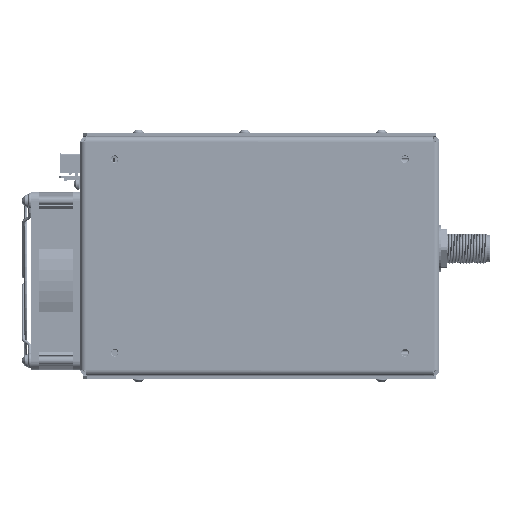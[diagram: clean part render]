
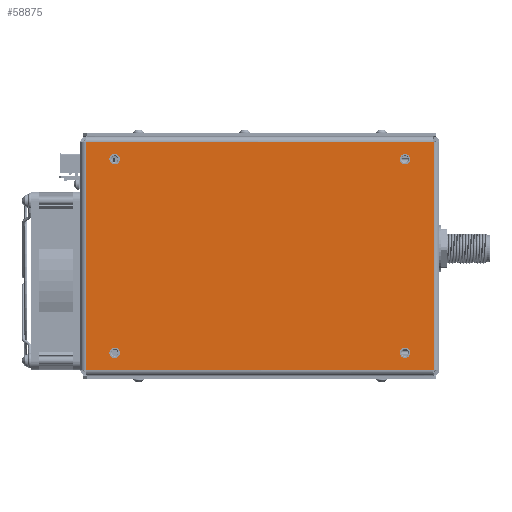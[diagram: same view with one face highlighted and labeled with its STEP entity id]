
A CAD part, front view. The second image highlights one B-rep face of the part: STEP entity #58875.
In plain terms, the highlighted planar face has unit normal (0, -1, 0).
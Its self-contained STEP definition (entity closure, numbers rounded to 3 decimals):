
#8344 = EDGE_LOOP ( 'NONE', ( #249452, #473746 ) ) ;
#12998 = DIRECTION ( 'NONE',  ( -1., 0., 0. ) ) ;
#20487 = VERTEX_POINT ( 'NONE', #201217 ) ;
#33942 = ORIENTED_EDGE ( 'NONE', *, *, #510217, .T. ) ;
#37025 = ORIENTED_EDGE ( 'NONE', *, *, #459307, .T. ) ;
#48754 = CARTESIAN_POINT ( 'NONE',  ( -170.455, 0., 111.75 ) ) ;
#54101 = VECTOR ( 'NONE', #383720, 1000. ) ;
#55480 = EDGE_LOOP ( 'NONE', ( #537529, #592021 ) ) ;
#58213 = CARTESIAN_POINT ( 'NONE',  ( -17.75, 0., 111.75 ) ) ;
#58875 = ADVANCED_FACE ( 'NONE', ( #510044, #379153, #248089, #625692, #448260 ), #419265, .T. ) ;
#68064 = CIRCLE ( 'NONE', #303082, 2.705 ) ;
#76726 = CARTESIAN_POINT ( 'NONE',  ( -182.5, 0., 120.5 ) ) ;
#76876 = VERTEX_POINT ( 'NONE', #127651 ) ;
#94301 = CARTESIAN_POINT ( 'NONE',  ( -17.75, 0., 111.75 ) ) ;
#94317 = CARTESIAN_POINT ( 'NONE',  ( -17.75, 0., 11.75 ) ) ;
#95031 = CARTESIAN_POINT ( 'NONE',  ( -167.75, 0., 111.75 ) ) ;
#102767 = CARTESIAN_POINT ( 'NONE',  ( -3., 0., 3. ) ) ;
#102808 = CARTESIAN_POINT ( 'NONE',  ( -17.75, 0., 11.75 ) ) ;
#119859 = ORIENTED_EDGE ( 'NONE', *, *, #293276, .T. ) ;
#124721 = EDGE_LOOP ( 'NONE', ( #309951, #176702 ) ) ;
#127651 = CARTESIAN_POINT ( 'NONE',  ( -20.455, 0., 11.75 ) ) ;
#128991 = DIRECTION ( 'NONE',  ( 0., 1., 0. ) ) ;
#141251 = EDGE_CURVE ( 'NONE', #439300, #438697, #377785, .T. ) ;
#142222 = VERTEX_POINT ( 'NONE', #267047 ) ;
#155110 = LINE ( 'NONE', #431072, #54101 ) ;
#158162 = CARTESIAN_POINT ( 'NONE',  ( -182.5, 0., 3. ) ) ;
#160303 = VERTEX_POINT ( 'NONE', #548772 ) ;
#176702 = ORIENTED_EDGE ( 'NONE', *, *, #358355, .T. ) ;
#176821 = CIRCLE ( 'NONE', #186142, 2.705 ) ;
#178490 = EDGE_CURVE ( 'NONE', #76876, #183857, #68064, .T. ) ;
#179921 = AXIS2_PLACEMENT_3D ( 'NONE', #377774, #222673, #526289 ) ;
#183857 = VERTEX_POINT ( 'NONE', #382522 ) ;
#186142 = AXIS2_PLACEMENT_3D ( 'NONE', #94301, #484477, #344446 ) ;
#186356 = AXIS2_PLACEMENT_3D ( 'NONE', #95031, #605730, #12998 ) ;
#189446 = VECTOR ( 'NONE', #620124, 1000. ) ;
#193722 = VECTOR ( 'NONE', #605201, 1000. ) ;
#201217 = CARTESIAN_POINT ( 'NONE',  ( -3., 0., 120.5 ) ) ;
#222673 = DIRECTION ( 'NONE',  ( 0., 1., 0. ) ) ;
#225102 = ORIENTED_EDGE ( 'NONE', *, *, #141251, .T. ) ;
#229599 = CARTESIAN_POINT ( 'NONE',  ( 0., 0., 123.5 ) ) ;
#237477 = AXIS2_PLACEMENT_3D ( 'NONE', #229599, #518304, #617395 ) ;
#238210 = CARTESIAN_POINT ( 'NONE',  ( -182.5, 0., 3. ) ) ;
#248089 = FACE_BOUND ( 'NONE', #55480, .T. ) ;
#249452 = ORIENTED_EDGE ( 'NONE', *, *, #324177, .T. ) ;
#255248 = EDGE_CURVE ( 'NONE', #20487, #532168, #320448, .T. ) ;
#255956 = CARTESIAN_POINT ( 'NONE',  ( -15.045, 0., 111.75 ) ) ;
#267047 = CARTESIAN_POINT ( 'NONE',  ( -165.045, 0., 11.75 ) ) ;
#272213 = AXIS2_PLACEMENT_3D ( 'NONE', #58213, #403387, #504539 ) ;
#275363 = CIRCLE ( 'NONE', #611101, 2.705 ) ;
#275488 = CARTESIAN_POINT ( 'NONE',  ( -167.75, 0., 11.75 ) ) ;
#278989 = CARTESIAN_POINT ( 'NONE',  ( -170.455, 0., 11.75 ) ) ;
#286151 = CIRCLE ( 'NONE', #272213, 2.705 ) ;
#293276 = EDGE_CURVE ( 'NONE', #142222, #300497, #598151, .T. ) ;
#300497 = VERTEX_POINT ( 'NONE', #278989 ) ;
#303082 = AXIS2_PLACEMENT_3D ( 'NONE', #102808, #447710, #371323 ) ;
#309951 = ORIENTED_EDGE ( 'NONE', *, *, #178490, .T. ) ;
#320448 = LINE ( 'NONE', #568473, #189446 ) ;
#324177 = EDGE_CURVE ( 'NONE', #587945, #437654, #176821, .T. ) ;
#344446 = DIRECTION ( 'NONE',  ( -1., 0., 0. ) ) ;
#351291 = CARTESIAN_POINT ( 'NONE',  ( -3., 0., 123.5 ) ) ;
#358355 = EDGE_CURVE ( 'NONE', #183857, #76876, #275363, .T. ) ;
#363710 = EDGE_LOOP ( 'NONE', ( #631612, #368408, #33942, #225102 ) ) ;
#368408 = ORIENTED_EDGE ( 'NONE', *, *, #255248, .T. ) ;
#371323 = DIRECTION ( 'NONE',  ( -1., 0., 0. ) ) ;
#377774 = CARTESIAN_POINT ( 'NONE',  ( -167.75, 0., 11.75 ) ) ;
#377785 = LINE ( 'NONE', #158162, #408648 ) ;
#379153 = FACE_BOUND ( 'NONE', #124721, .T. ) ;
#382522 = CARTESIAN_POINT ( 'NONE',  ( -15.045, 0., 11.75 ) ) ;
#383720 = DIRECTION ( 'NONE',  ( 0., 0., -1. ) ) ;
#395572 = DIRECTION ( 'NONE',  ( 1., 0., 0. ) ) ;
#403387 = DIRECTION ( 'NONE',  ( 0., 1., 0. ) ) ;
#408648 = VECTOR ( 'NONE', #395572, 1000. ) ;
#419265 = PLANE ( 'NONE',  #237477 ) ;
#431072 = CARTESIAN_POINT ( 'NONE',  ( -182.5, 0., 123.5 ) ) ;
#437654 = VERTEX_POINT ( 'NONE', #255956 ) ;
#438697 = VERTEX_POINT ( 'NONE', #102767 ) ;
#439300 = VERTEX_POINT ( 'NONE', #238210 ) ;
#442886 = CIRCLE ( 'NONE', #186356, 2.705 ) ;
#447674 = DIRECTION ( 'NONE',  ( 0., 1., 0. ) ) ;
#447710 = DIRECTION ( 'NONE',  ( 0., 1., 0. ) ) ;
#448260 = FACE_OUTER_BOUND ( 'NONE', #363710, .T. ) ;
#459307 = EDGE_CURVE ( 'NONE', #300497, #142222, #542073, .T. ) ;
#471217 = LINE ( 'NONE', #351291, #193722 ) ;
#473746 = ORIENTED_EDGE ( 'NONE', *, *, #631684, .T. ) ;
#484477 = DIRECTION ( 'NONE',  ( 0., 1., 0. ) ) ;
#492950 = DIRECTION ( 'NONE',  ( -1., 0., 0. ) ) ;
#504297 = CARTESIAN_POINT ( 'NONE',  ( -20.455, 0., 111.75 ) ) ;
#504539 = DIRECTION ( 'NONE',  ( -1., 0., 0. ) ) ;
#510044 = FACE_BOUND ( 'NONE', #8344, .T. ) ;
#510217 = EDGE_CURVE ( 'NONE', #532168, #439300, #155110, .T. ) ;
#514789 = CARTESIAN_POINT ( 'NONE',  ( -167.75, 0., 111.75 ) ) ;
#518304 = DIRECTION ( 'NONE',  ( 0., -1., 0. ) ) ;
#521235 = DIRECTION ( 'NONE',  ( -1., 0., 0. ) ) ;
#526289 = DIRECTION ( 'NONE',  ( -1., 0., 0. ) ) ;
#532168 = VERTEX_POINT ( 'NONE', #76726 ) ;
#536750 = AXIS2_PLACEMENT_3D ( 'NONE', #275488, #620150, #613737 ) ;
#537529 = ORIENTED_EDGE ( 'NONE', *, *, #572352, .T. ) ;
#539861 = VERTEX_POINT ( 'NONE', #48754 ) ;
#540768 = EDGE_CURVE ( 'NONE', #160303, #539861, #604407, .T. ) ;
#542073 = CIRCLE ( 'NONE', #179921, 2.705 ) ;
#548772 = CARTESIAN_POINT ( 'NONE',  ( -165.045, 0., 111.75 ) ) ;
#554019 = EDGE_LOOP ( 'NONE', ( #37025, #119859 ) ) ;
#568473 = CARTESIAN_POINT ( 'NONE',  ( -3., 0., 120.5 ) ) ;
#572352 = EDGE_CURVE ( 'NONE', #539861, #160303, #442886, .T. ) ;
#573021 = AXIS2_PLACEMENT_3D ( 'NONE', #514789, #128991, #521235 ) ;
#587945 = VERTEX_POINT ( 'NONE', #504297 ) ;
#592021 = ORIENTED_EDGE ( 'NONE', *, *, #540768, .T. ) ;
#598151 = CIRCLE ( 'NONE', #536750, 2.705 ) ;
#604407 = CIRCLE ( 'NONE', #573021, 2.705 ) ;
#605201 = DIRECTION ( 'NONE',  ( 0., 0., -1. ) ) ;
#605730 = DIRECTION ( 'NONE',  ( 0., 1., 0. ) ) ;
#607607 = EDGE_CURVE ( 'NONE', #20487, #438697, #471217, .T. ) ;
#611101 = AXIS2_PLACEMENT_3D ( 'NONE', #94317, #447674, #492950 ) ;
#613737 = DIRECTION ( 'NONE',  ( -1., 0., 0. ) ) ;
#617395 = DIRECTION ( 'NONE',  ( 1., 0., 0. ) ) ;
#620124 = DIRECTION ( 'NONE',  ( -1., 0., 0. ) ) ;
#620150 = DIRECTION ( 'NONE',  ( 0., 1., 0. ) ) ;
#625692 = FACE_BOUND ( 'NONE', #554019, .T. ) ;
#631612 = ORIENTED_EDGE ( 'NONE', *, *, #607607, .F. ) ;
#631684 = EDGE_CURVE ( 'NONE', #437654, #587945, #286151, .T. ) ;
